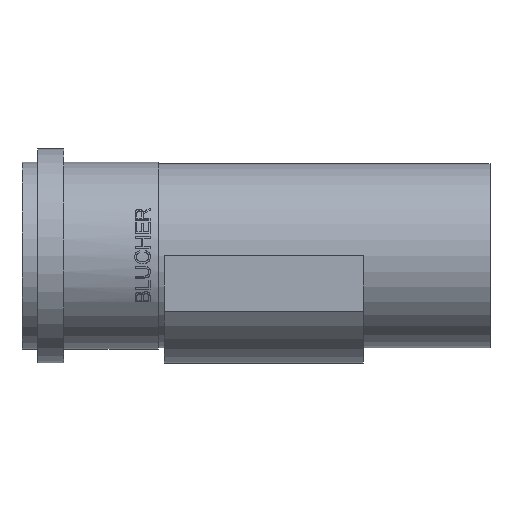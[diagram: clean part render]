
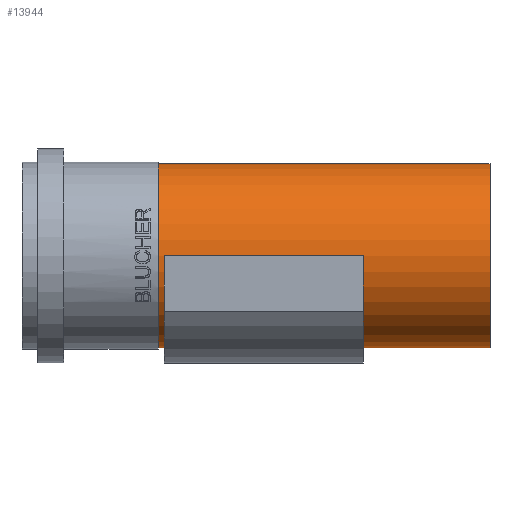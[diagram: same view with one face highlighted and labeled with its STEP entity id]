
A CAD part, top view. The second image highlights one B-rep face of the part: STEP entity #13944.
In plain terms, the highlighted cylindrical face has radius 37.465 mm (diameter 74.93 mm), a full revolution.
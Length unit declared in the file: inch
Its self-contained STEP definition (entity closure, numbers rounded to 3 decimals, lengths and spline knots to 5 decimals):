
#13672=CARTESIAN_POINT('',(-1.59375,0.0,-1.475));
#13673=VERTEX_POINT('',#13672);
#13689=CARTESIAN_POINT('',(-1.59375,0.0,1.475));
#13690=VERTEX_POINT('',#13689);
#13697=CARTESIAN_POINT('',(-1.59375,0.0,0.0));
#13698=DIRECTION('',(-1.0,0.0,0.0));
#13699=DIRECTION('',(0.0,1.0,0.0));
#13700=AXIS2_PLACEMENT_3D('',#13697,#13698,#13699);
#13701=CIRCLE('',#13700,1.475);
#13702=EDGE_CURVE('',#13673,#13690,#13701,.T.);
#13714=CARTESIAN_POINT('',(1.59375,0.0,1.475));
#13715=VERTEX_POINT('',#13714);
#13722=CARTESIAN_POINT('',(-1.59375,0.0,1.475));
#13723=DIRECTION('',(1.0,0.0,0.0));
#13724=VECTOR('',#13723,3.1875);
#13725=LINE('',#13722,#13724);
#13726=EDGE_CURVE('',#13690,#13715,#13725,.T.);
#13743=CARTESIAN_POINT('',(1.59375,0.0,-1.475));
#13744=VERTEX_POINT('',#13743);
#13760=CARTESIAN_POINT('',(-1.59375,0.0,-1.475));
#13761=DIRECTION('',(1.0,0.0,0.0));
#13762=VECTOR('',#13761,3.1875);
#13763=LINE('',#13760,#13762);
#13764=EDGE_CURVE('',#13673,#13744,#13763,.T.);
#13795=CARTESIAN_POINT('',(1.59375,0.0,0.0));
#13796=DIRECTION('',(1.0,0.0,0.0));
#13797=DIRECTION('',(0.0,1.0,0.0));
#13798=AXIS2_PLACEMENT_3D('',#13795,#13796,#13797);
#13799=CIRCLE('',#13798,1.475);
#13800=EDGE_CURVE('',#13715,#13744,#13799,.T.);
#13907=CARTESIAN_POINT('',(-1.6875,1.475,0.0));
#13908=VERTEX_POINT('',#13907);
#13909=CARTESIAN_POINT('',(-1.6875,0.0,0.0));
#13910=DIRECTION('',(1.0,0.0,0.0));
#13911=DIRECTION('',(0.0,1.0,0.0));
#13912=AXIS2_PLACEMENT_3D('',#13909,#13910,#13911);
#13913=CIRCLE('',#13912,1.475);
#13914=EDGE_CURVE('',#13908,#13908,#13913,.T.);
#13919=CARTESIAN_POINT('',(0.96875,0.0,0.0));
#13920=DIRECTION('',(1.0,0.0,0.0));
#13921=DIRECTION('',(0.0,1.0,0.0));
#13922=AXIS2_PLACEMENT_3D('',#13919,#13920,#13921);
#13923=CYLINDRICAL_SURFACE('',#13922,1.475);
#13924=CARTESIAN_POINT('',(3.625,1.475,0.0));
#13925=VERTEX_POINT('',#13924);
#13926=CARTESIAN_POINT('',(3.625,0.0,0.0));
#13927=DIRECTION('',(1.0,0.0,0.0));
#13928=DIRECTION('',(0.0,1.0,0.0));
#13929=AXIS2_PLACEMENT_3D('',#13926,#13927,#13928);
#13930=CIRCLE('',#13929,1.475);
#13931=EDGE_CURVE('',#13925,#13925,#13930,.T.);
#13932=ORIENTED_EDGE('',*,*,#13931,.F.);
#13933=EDGE_LOOP('',(#13932));
#13934=FACE_OUTER_BOUND('',#13933,.T.);
#13935=ORIENTED_EDGE('',*,*,#13702,.T.);
#13936=ORIENTED_EDGE('',*,*,#13726,.T.);
#13937=ORIENTED_EDGE('',*,*,#13800,.T.);
#13938=ORIENTED_EDGE('',*,*,#13764,.F.);
#13939=EDGE_LOOP('',(#13935,#13936,#13937,#13938));
#13940=FACE_BOUND('',#13939,.T.);
#13941=ORIENTED_EDGE('',*,*,#13914,.T.);
#13942=EDGE_LOOP('',(#13941));
#13943=FACE_BOUND('',#13942,.T.);
#13944=ADVANCED_FACE('',(#13934,#13940,#13943),#13923,.T.);
